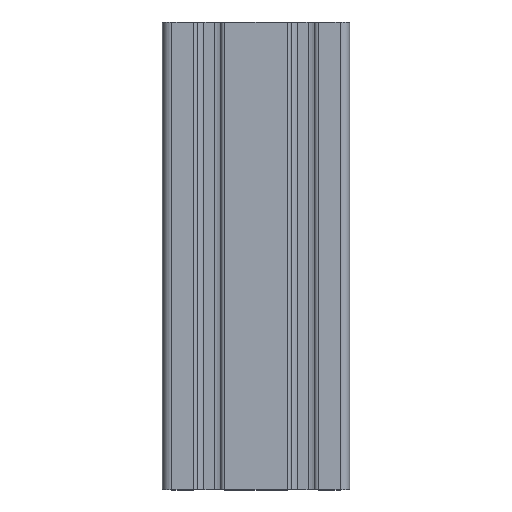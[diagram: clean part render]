
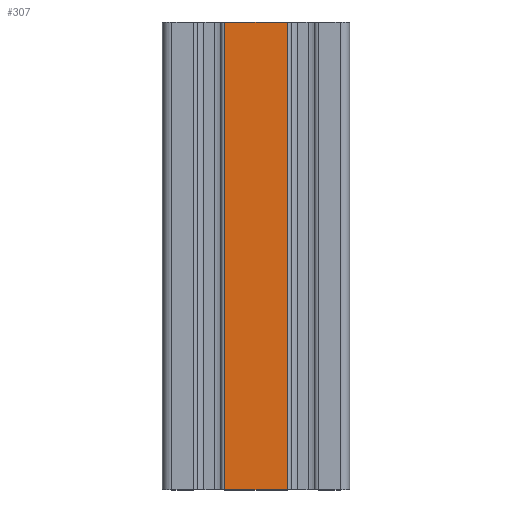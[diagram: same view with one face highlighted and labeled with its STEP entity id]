
A CAD part, top view. The second image highlights one B-rep face of the part: STEP entity #307.
In plain terms, the highlighted planar face has unit normal (0, 0, 1).
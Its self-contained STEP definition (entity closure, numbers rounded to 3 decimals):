
#307=ADVANCED_FACE('',(#652),#653,.T.);
#652=FACE_OUTER_BOUND('',#1032,.T.);
#653=PLANE('',#1033);
#1032=EDGE_LOOP('',(#1919,#1920,#1921,#1922));
#1033=AXIS2_PLACEMENT_3D('',#1923,#1924,#1925);
#1919=ORIENTED_EDGE('',*,*,#2682,.T.);
#1920=ORIENTED_EDGE('',*,*,#2549,.T.);
#1921=ORIENTED_EDGE('',*,*,#2688,.T.);
#1922=ORIENTED_EDGE('',*,*,#2733,.T.);
#1923=CARTESIAN_POINT('',(0.0,50.0,10.0));
#1924=DIRECTION('',(0.0,0.0,1.0));
#1925=DIRECTION('',(-1.0,0.0,0.0));
#2549=EDGE_CURVE('',#3148,#3146,#3149,.T.);
#2682=EDGE_CURVE('',#3348,#3148,#3350,.T.);
#2688=EDGE_CURVE('',#3146,#3356,#3359,.T.);
#2733=EDGE_CURVE('',#3356,#3348,#3418,.T.);
#3146=VERTEX_POINT('',#3953);
#3148=VERTEX_POINT('',#3955);
#3149=LINE('',#3956,#3957);
#3348=VERTEX_POINT('',#4222);
#3350=LINE('',#4224,#4225);
#3356=VERTEX_POINT('',#4233);
#3359=LINE('',#4236,#4237);
#3418=LINE('',#4318,#4319);
#3953=CARTESIAN_POINT('',(-6.7,50.0,10.0));
#3955=CARTESIAN_POINT('',(6.7,50.0,10.0));
#3956=CARTESIAN_POINT('',(18.0,50.0,10.0));
#3957=VECTOR('',#4806,1.0);
#4222=CARTESIAN_POINT('',(6.7,-50.0,10.0));
#4224=CARTESIAN_POINT('',(6.7,50.0,10.0));
#4225=VECTOR('',#4975,1.0);
#4233=CARTESIAN_POINT('',(-6.7,-50.0,10.0));
#4236=CARTESIAN_POINT('',(-6.7,50.0,10.0));
#4237=VECTOR('',#4981,1.0);
#4318=CARTESIAN_POINT('',(18.0,-50.0,10.0));
#4319=VECTOR('',#5025,1.0);
#4806=DIRECTION('',(-1.0,0.0,0.0));
#4975=DIRECTION('',(0.0,1.0,-0.0));
#4981=DIRECTION('',(0.0,-1.0,0.0));
#5025=DIRECTION('',(1.0,0.0,0.0));
